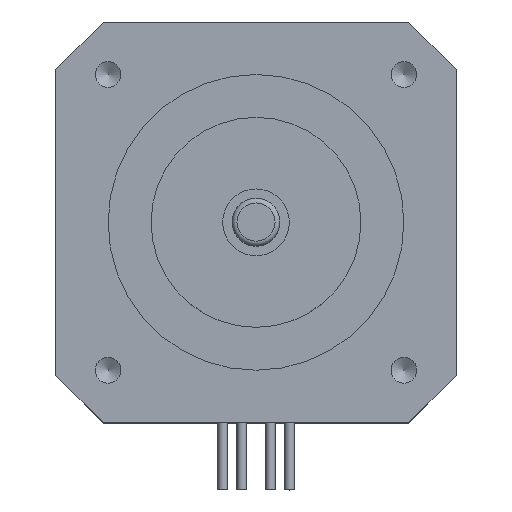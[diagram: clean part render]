
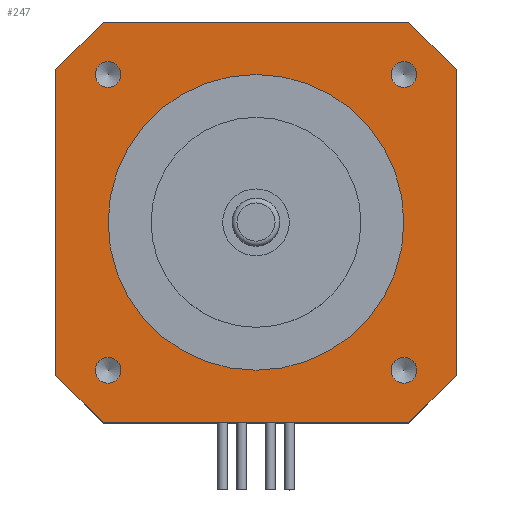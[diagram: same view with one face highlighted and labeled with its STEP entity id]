
A CAD part, top view. The second image highlights one B-rep face of the part: STEP entity #247.
In plain terms, the highlighted planar face has unit normal (0, 0, 1).
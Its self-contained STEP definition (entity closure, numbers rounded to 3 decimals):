
#247=ADVANCED_FACE('',(#1027,#1028,#1029,#1030,#1031,#1032),#392,.F.);
#392=PLANE('',#2496);
#547=LINE('',#3430,#803);
#548=LINE('',#3433,#804);
#549=LINE('',#3435,#805);
#550=LINE('',#3437,#806);
#551=LINE('',#3439,#807);
#552=LINE('',#3441,#808);
#553=LINE('',#3443,#809);
#554=LINE('',#3445,#810);
#803=VECTOR('',#2749,1.);
#804=VECTOR('',#2750,1.);
#805=VECTOR('',#2751,1.);
#806=VECTOR('',#2752,1.);
#807=VECTOR('',#2753,1.);
#808=VECTOR('',#2754,1.);
#809=VECTOR('',#2755,1.);
#810=VECTOR('',#2756,1.);
#1027=FACE_BOUND('',#1121,.T.);
#1028=FACE_BOUND('',#1122,.T.);
#1029=FACE_BOUND('',#1123,.T.);
#1030=FACE_BOUND('',#1124,.T.);
#1031=FACE_BOUND('',#1125,.T.);
#1032=FACE_BOUND('',#1126,.T.);
#1121=EDGE_LOOP('',(#1353));
#1122=EDGE_LOOP('',(#1354));
#1123=EDGE_LOOP('',(#1355));
#1124=EDGE_LOOP('',(#1356));
#1125=EDGE_LOOP('',(#1357,#1358,#1359,#1360,#1361,#1362,#1363,#1364));
#1126=EDGE_LOOP('',(#1365));
#1353=ORIENTED_EDGE('',*,*,#2180,.T.);
#1354=ORIENTED_EDGE('',*,*,#2181,.T.);
#1355=ORIENTED_EDGE('',*,*,#2182,.T.);
#1356=ORIENTED_EDGE('',*,*,#2183,.T.);
#1357=ORIENTED_EDGE('',*,*,#2184,.F.);
#1358=ORIENTED_EDGE('',*,*,#2185,.T.);
#1359=ORIENTED_EDGE('',*,*,#2186,.F.);
#1360=ORIENTED_EDGE('',*,*,#2187,.T.);
#1361=ORIENTED_EDGE('',*,*,#2188,.F.);
#1362=ORIENTED_EDGE('',*,*,#2189,.T.);
#1363=ORIENTED_EDGE('',*,*,#2190,.F.);
#1364=ORIENTED_EDGE('',*,*,#2191,.T.);
#1365=ORIENTED_EDGE('',*,*,#2192,.T.);
#1959=VERTEX_POINT('',#3423);
#1960=VERTEX_POINT('',#3425);
#1961=VERTEX_POINT('',#3427);
#1962=VERTEX_POINT('',#3429);
#1963=VERTEX_POINT('',#3431);
#1964=VERTEX_POINT('',#3432);
#1965=VERTEX_POINT('',#3434);
#1966=VERTEX_POINT('',#3436);
#1967=VERTEX_POINT('',#3438);
#1968=VERTEX_POINT('',#3440);
#1969=VERTEX_POINT('',#3442);
#1970=VERTEX_POINT('',#3444);
#1971=VERTEX_POINT('',#3447);
#2180=EDGE_CURVE('',#1959,#1959,#2439,.T.);
#2181=EDGE_CURVE('',#1960,#1960,#2440,.T.);
#2182=EDGE_CURVE('',#1961,#1961,#2441,.T.);
#2183=EDGE_CURVE('',#1962,#1962,#2442,.T.);
#2184=EDGE_CURVE('',#1963,#1964,#547,.T.);
#2185=EDGE_CURVE('',#1963,#1965,#548,.T.);
#2186=EDGE_CURVE('',#1966,#1965,#549,.T.);
#2187=EDGE_CURVE('',#1966,#1967,#550,.T.);
#2188=EDGE_CURVE('',#1968,#1967,#551,.T.);
#2189=EDGE_CURVE('',#1968,#1969,#552,.T.);
#2190=EDGE_CURVE('',#1970,#1969,#553,.T.);
#2191=EDGE_CURVE('',#1970,#1964,#554,.T.);
#2192=EDGE_CURVE('',#1971,#1971,#2443,.T.);
#2439=CIRCLE('',#2491,1.35);
#2440=CIRCLE('',#2492,1.35);
#2441=CIRCLE('',#2493,1.35);
#2442=CIRCLE('',#2494,1.35);
#2443=CIRCLE('',#2495,15.5);
#2491=AXIS2_PLACEMENT_3D('',#3422,#2741,#2742);
#2492=AXIS2_PLACEMENT_3D('',#3424,#2743,#2744);
#2493=AXIS2_PLACEMENT_3D('',#3426,#2745,#2746);
#2494=AXIS2_PLACEMENT_3D('',#3428,#2747,#2748);
#2495=AXIS2_PLACEMENT_3D('',#3446,#2757,#2758);
#2496=AXIS2_PLACEMENT_3D('',#3448,#2759,#2760);
#2741=DIRECTION('',(0.,0.,-1.));
#2742=DIRECTION('',(-1.,0.,0.));
#2743=DIRECTION('',(0.,0.,-1.));
#2744=DIRECTION('',(-1.,0.,0.));
#2745=DIRECTION('',(0.,0.,-1.));
#2746=DIRECTION('',(-1.,0.,0.));
#2747=DIRECTION('',(0.,0.,-1.));
#2748=DIRECTION('',(-1.,0.,0.));
#2749=DIRECTION('',(1.,0.,0.));
#2750=DIRECTION('',(-0.707,-0.707,0.));
#2751=DIRECTION('',(0.,1.,0.));
#2752=DIRECTION('',(0.707,-0.707,0.));
#2753=DIRECTION('',(-1.,0.,0.));
#2754=DIRECTION('',(0.707,0.707,0.));
#2755=DIRECTION('',(0.,-1.,0.));
#2756=DIRECTION('',(-0.707,0.707,0.));
#2757=DIRECTION('',(0.,0.,-1.));
#2758=DIRECTION('',(1.,0.,0.));
#2759=DIRECTION('',(0.,0.,-1.));
#2760=DIRECTION('',(-1.,0.,0.));
#3422=CARTESIAN_POINT('',(15.5,-15.5,0.));
#3423=CARTESIAN_POINT('',(14.15,-15.5,0.));
#3424=CARTESIAN_POINT('',(15.5,15.5,0.));
#3425=CARTESIAN_POINT('',(14.15,15.5,0.));
#3426=CARTESIAN_POINT('',(-15.5,15.5,0.));
#3427=CARTESIAN_POINT('',(-16.85,15.5,0.));
#3428=CARTESIAN_POINT('',(-15.5,-15.5,0.));
#3429=CARTESIAN_POINT('',(-16.85,-15.5,0.));
#3430=CARTESIAN_POINT('',(-21.,21.,0.));
#3431=CARTESIAN_POINT('',(-16.,21.,0.));
#3432=CARTESIAN_POINT('',(16.,21.,0.));
#3433=CARTESIAN_POINT('',(-16.,21.,0.));
#3434=CARTESIAN_POINT('',(-21.,16.,0.));
#3435=CARTESIAN_POINT('',(-21.,-21.,0.));
#3436=CARTESIAN_POINT('',(-21.,-16.,0.));
#3437=CARTESIAN_POINT('',(-21.,-16.,0.));
#3438=CARTESIAN_POINT('',(-16.,-21.,0.));
#3439=CARTESIAN_POINT('',(21.,-21.,0.));
#3440=CARTESIAN_POINT('',(16.,-21.,0.));
#3441=CARTESIAN_POINT('',(16.,-21.,0.));
#3442=CARTESIAN_POINT('',(21.,-16.,0.));
#3443=CARTESIAN_POINT('',(21.,21.,0.));
#3444=CARTESIAN_POINT('',(21.,16.,0.));
#3445=CARTESIAN_POINT('',(21.,16.,0.));
#3446=CARTESIAN_POINT('',(0.,0.,0.));
#3447=CARTESIAN_POINT('',(15.5,0.,0.));
#3448=CARTESIAN_POINT('',(-21.,-21.,0.));
